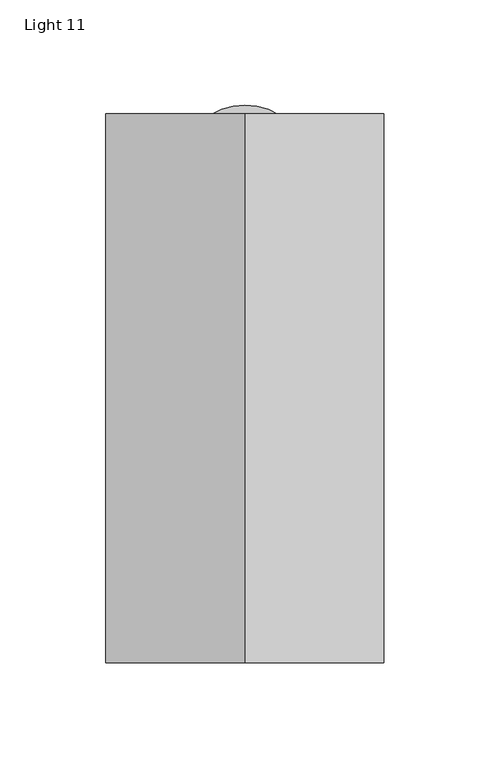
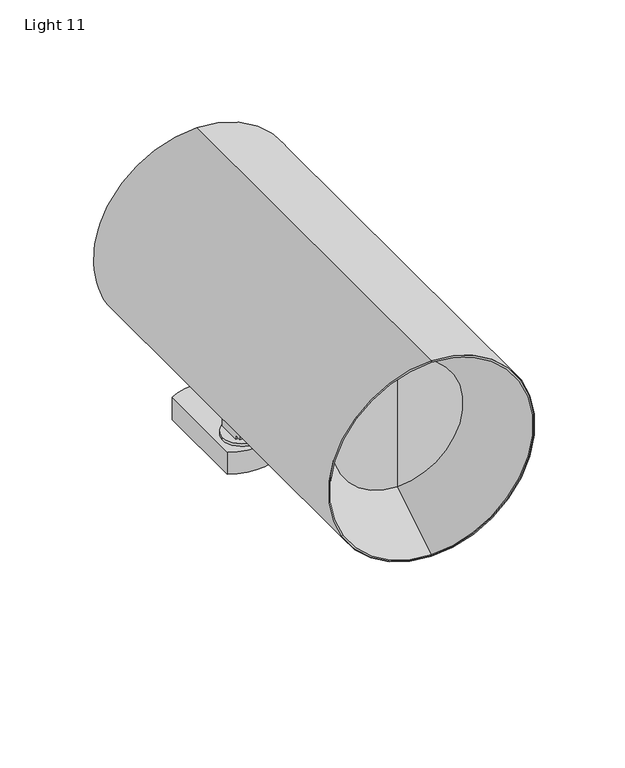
"""IFC4 building model written with IfcOpenShell, lengths in millimetres: light fixture geometry, PIPES T L : Light 11."""

from ifc_helpers import new_model, si_unit, point, frame, frame_2d, origin, origin_with_axes, origin_2d, place, context, project, spatial, polyline, circle_curve, trimmed, segment, composite_curve, outline, extrude, source, transform, mapped, element, save
from ifc_brep_helpers import plane_surface, cylinder_surface, revolved_surface, advanced_brep


def light_11_2a75b1a4(model_context):
    return source(origin(), model_context, "Body", "SolidModel", [
        advanced_brep(
        [(7.0, -10.0, 78.3537722), (7.0, -10.0, 19.4236941), (7.0, -5.4241367, 19.4236941), (7.0, -5.4241367, 16.8), (7.0, 10.0, 16.8), (7.0, 10.0, 70.8099323), (7.0, 2.6102343, 79.2766927), (7.0, -7.1274849, 80.6452398), (7.0, -7.1274849, 78.3537722), (-7.0, -10.0, 78.3537722), (-7.0, -7.1274849, 78.3537722), (-7.0, -7.1274849, 80.6452398), (-7.0, 2.6102343, 79.2766927), (-7.0, 9.9702768, 70.8099323), (-7.0, 10.0, 16.8), (-7.0, -5.4241367, 16.8), (-7.0, -5.4241367, 19.4236941), (-7.0, -10.0, 19.4236941)],
        [
            (0, 1),
            (1, 2),
            (2, 3),
            (3, 4),
            (4, 5),
            (5, 6, circle_curve(frame((7.0, 1.4203087, 70.8099323), z_axis=(1.0, 0.0, 0.0), x_axis=(0.0, -1.0, 0.0)), 8.5499681)),
            (6, 7),
            (7, 8),
            (8, 0),
            (9, 10),
            (10, 11),
            (11, 12),
            (12, 13, circle_curve(frame((-7.0, 1.4203087, 70.8099323), z_axis=(-1.0, 0.0, 0.0), x_axis=(0.0, -1.0, 0.0)), 8.5499681)),
            (13, 14),
            (14, 15),
            (15, 16),
            (16, 17),
            (17, 9),
            (5, 13),
            (12, 6),
            (11, 7),
            (10, 8),
            (9, 0),
            (17, 1),
            (16, 2),
            (15, 3),
            (14, 4),
        ],
        [
            plane_surface(frame((7.0, -10.0, 21.3023289), z_axis=(1.0, 0.0, 0.0), x_axis=(0.0, 0.0, -1.0))),
            plane_surface(frame((-7.0, -10.0, 21.3023289), z_axis=(-1.0, 0.0, 0.0), x_axis=(0.0, 0.0, 1.0))),
            cylinder_surface(frame((-7.0, 1.4203087, 70.8099323), z_axis=(1.0, 0.0, 0.0), x_axis=(0.0, -1.0, 0.0)), 8.5499681),
            plane_surface(frame((7.0, 2.6102343, 79.2766927), z_axis=(0.0, 0.1391731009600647, 0.9902680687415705), x_axis=(-1.0, 0.0, 0.0))),
            plane_surface(frame((7.0, -7.1274849, 80.6452398), z_axis=(0.0, -1.0, 0.0), x_axis=(-1.0, 0.0, 0.0))),
            plane_surface(frame((7.0, -7.1274849, 78.3537722), z_axis=(0.0, 0.0, 1.0), x_axis=(-1.0, 0.0, 0.0))),
            plane_surface(frame((7.0, -10.0, 78.3537722), z_axis=(0.0, -1.0, 0.0), x_axis=(-1.0, 0.0, 0.0))),
            plane_surface(frame((7.0, -10.0, 19.4236941), z_axis=(0.0, 0.0, -1.0), x_axis=(-1.0, 0.0, 0.0))),
            plane_surface(frame((7.0, -5.4241367, 19.4236941), z_axis=(0.0, -1.0, 0.0), x_axis=(-1.0, 0.0, 0.0))),
            plane_surface(frame((7.0, -5.4241367, 16.8), z_axis=(0.0, 0.0, -1.0), x_axis=(-1.0, 0.0, 0.0))),
            plane_surface(frame((7.0, 10.0, 16.8), z_axis=(0.0, 1.0, 0.0), x_axis=(-1.0, 0.0, 0.0))),
        ],
        [
            (0, [[1, 2, 3, 4, 5, 6, 7, 8, 9]]),
            (1, [[10, 11, 12, 13, 14, 15, 16, 17, 18]]),
            (2, [[-6, 19, -13, 20]]),
            (3, [[-7, -20, -12, 21]]),
            (4, [[-8, -21, -11, 22]]),
            (5, [[-9, -22, -10, 23]]),
            (6, [[-1, -23, -18, 24]]),
            (7, [[-2, -24, -17, 25]]),
            (8, [[-3, -25, -16, 26]]),
            (9, [[-4, -26, -15, 27]]),
            (10, [[-5, -27, -14, -19]]),
        ],
    ),
        extrude(outline(composite_curve([segment(trimmed(circle_curve(origin_2d(), 12.5), [point((12.5, 0.0))], [point((-12.5, 0.0))], False, "CARTESIAN"), True, "CONTINUOUS"), segment(trimmed(circle_curve(origin_2d(), 12.5), [point((-12.5, 0.0))], [point((12.5, 0.0))], False, "CARTESIAN"), True, "CONTINUOUS")], self_intersect=False)), frame((0.0, 0.0, 15.0), z_axis=(0.0, 0.0, 1.0), x_axis=(1.0, 0.0, 0.0)), (0.0, 0.0, 1.0), 1.8),
        extrude(outline(composite_curve([segment(polyline([(-16.1153658, -11.6682336), (-16.1153658, 49.7317664)]), True, "CONTINUOUS"), segment(trimmed(circle_curve(frame_2d((0.0, 22.6472542)), 31.5162786), [point((-16.1153658, 49.7317664))], [point((16.1153658, 49.7317664))], False, "CARTESIAN"), True, "CONTINUOUS"), segment(polyline([(16.1153658, 49.7317664), (16.1153658, -11.6682336)]), True, "CONTINUOUS"), segment(trimmed(circle_curve(frame_2d((0.0, 15.4162786)), 31.5162786), [point((16.1153658, -11.6682336))], [point((-16.1153658, -11.6682336))], False, "CARTESIAN"), True, "CONTINUOUS")], self_intersect=False)), origin_with_axes(), (0.0, 0.0, 1.0), 15.0),
        advanced_brep(
        [(0.0, -211.0, 59.4236941), (0.0, -211.0, 192.4236941), (0.0, 50.0, 192.4236941), (-8.0, 50.0, 59.9066508), (-8.0, -10.0, 59.9066508), (0.0, -10.0, 59.4236941), (8.0, -10.0, 59.9066508), (8.0, 50.0, 59.9066508), (0.0, 50.0, 190.4236941), (-8.0, 50.0, 61.921741), (8.0, 50.0, 61.921741), (0.0, 39.0, 190.4236941), (-8.0, 39.0, 61.921741), (8.0, 39.0, 61.921741), (0.0, 39.0, 125.9236941), (0.0, 39.0, 79.4236941), (-8.0, 39.0, 79.4236941), (8.0, 39.0, 79.4236941), (0.0, -172.0, 168.5503073), (0.0, -172.0, 83.2970809), (0.0, -172.0, 125.9236941), (8.0, -10.0, 79.4236941), (-8.0, -10.0, 79.4236941)],
        [
            (0, 1, circle_curve(frame((0.0, -211.0, 125.9236941), z_axis=(0.0, 1.0, 0.0), x_axis=(0.0, 0.0, -1.0)), 66.5)),
            (1, 2),
            (2, 3, circle_curve(frame((0.0, 50.0, 125.9236941), z_axis=(0.0, -1.0, 0.0), x_axis=(0.0, 0.0, -1.0)), 66.5)),
            (3, 4),
            (4, 5, circle_curve(frame((0.0, -10.0, 125.9236941), z_axis=(0.0, -1.0, 0.0), x_axis=(0.0, 0.0, -1.0)), 66.5)),
            (5, 0),
            (1, 0, circle_curve(frame((0.0, -211.0, 125.9236941), z_axis=(0.0, 1.0, 0.0), x_axis=(0.0, 0.0, -1.0)), 66.5)),
            (5, 6, circle_curve(frame((0.0, -10.0, 125.9236941), z_axis=(0.0, -1.0, 0.0), x_axis=(0.0, 0.0, -1.0)), 66.5)),
            (6, 7),
            (7, 2, circle_curve(frame((0.0, 50.0, 125.9236941), z_axis=(0.0, -1.0, 0.0), x_axis=(0.0, 0.0, -1.0)), 66.5)),
            (2, 8),
            (8, 9, circle_curve(frame((0.0, 50.0, 125.9236941), z_axis=(0.0, -1.0, 0.0), x_axis=(0.0, 0.0, -1.0)), 64.5)),
            (9, 3),
            (7, 10),
            (10, 8, circle_curve(frame((0.0, 50.0, 125.9236941), z_axis=(0.0, -1.0, 0.0), x_axis=(0.0, 0.0, -1.0)), 64.5)),
            (8, 11),
            (11, 12, circle_curve(frame((0.0, 39.0, 125.9236941), z_axis=(0.0, -1.0, 0.0), x_axis=(0.0, 0.0, -1.0)), 64.5)),
            (12, 9),
            (10, 13),
            (13, 11, circle_curve(frame((0.0, 39.0, 125.9236941), z_axis=(0.0, -1.0, 0.0), x_axis=(0.0, 0.0, -1.0)), 64.5)),
            (11, 14),
            (14, 15),
            (15, 16),
            (16, 12),
            (13, 17),
            (17, 15),
            (18, 19, circle_curve(frame((0.0, -172.0, 125.9236941), z_axis=(0.0, -1.0, 0.0), x_axis=(0.0, 0.0, -1.0)), 42.6266132)),
            (19, 20),
            (20, 18),
            (19, 18, circle_curve(frame((0.0, -172.0, 125.9236941), z_axis=(0.0, -1.0, 0.0), x_axis=(0.0, 0.0, -1.0)), 42.6266132)),
            (0, 19),
            (18, 1),
            (21, 17),
            (6, 21),
            (22, 4),
            (16, 22),
            (21, 22),
        ],
        [
            cylinder_surface(frame((0.0, 55.452381, 125.9236941), z_axis=(0.0, 1.0, 0.0), x_axis=(0.0, 0.0, -1.0)), 66.5),
            plane_surface(frame((0.0, 50.0, 125.9236941), z_axis=(0.0, 1.0, 0.0), x_axis=(0.0, 0.0, -1.0))),
            revolved_surface(polyline([(0.0, 50.0, 61.423694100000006), (0.0, 39.0, 61.423694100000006)]), (0.0, 55.452381, 125.9236941), (0.0, 1.0, 0.0)),
            plane_surface(frame((0.0, 39.0, 125.9236941), z_axis=(0.0, 1.0, 0.0), x_axis=(0.0, 0.0, -1.0))),
            plane_surface(frame((0.0, -172.0, 125.9236941), z_axis=(0.0, -1.0, 0.0), x_axis=(0.0, 0.0, -1.0))),
            revolved_surface(polyline([(0.0, -172.0, 83.2970809), (0.0, -211.0, 59.4236941)]), (0.0, 55.452381, 125.9236941), (0.0, 1.0, 0.0)),
            plane_surface(frame((8.0, -11.0, 79.4236941), z_axis=(-1.0, 0.0, 0.0), x_axis=(0.0, -1.0, 0.0))),
            plane_surface(frame((-8.0, -11.0, 79.4236941), z_axis=(1.0, 0.0, 0.0), x_axis=(0.0, 1.0, 0.0))),
            plane_surface(frame((-8.0, -10.0, 79.4236941), z_axis=(0.0, 0.0, -1.0), x_axis=(1.0, 0.0, 0.0))),
            plane_surface(frame((-8.0, -10.0, 54.4236941), z_axis=(0.0, 1.0, 0.0), x_axis=(1.0, 0.0, 0.0))),
        ],
        [
            (0, [[1, 2, 3, 4, 5, 6]]),
            (0, [[-2, 7, -6, 8, 9, 10]]),
            (1, [[11, 12, 13, -3]]),
            (1, [[-11, -10, 14, 15]]),
            (2, [[16, 17, 18, -12]]),
            (2, [[-16, -15, 19, 20]]),
            (3, [[21, 22, 23, 24, -17]]),
            (3, [[-21, -20, 25, 26, -22]]),
            (4, [[27, 28, 29]]),
            (4, [[-28, 30, -29]]),
            (5, [[-1, 31, -27, 32]]),
            (5, [[-7, -32, -30, -31]]),
            (6, [[33, -25, -19, -14, -9, 34]]),
            (7, [[35, -4, -13, -18, -24, 36]]),
            (8, [[37, -36, -23, -26, -33]]),
            (9, [[-37, -34, -8, -5, -35]]),
        ],
    ),
        advanced_brep(
        [(0.0, 48.0, 125.9236941), (0.0, 48.0, 188.4173375), (-8.0, 48.0, 63.9442179), (-8.0, 48.0, 79.4236941), (0.0, 48.0, 79.4236941), (8.0, 48.0, 79.4236941), (8.0, 48.0, 63.9442179), (0.0, 50.0, 188.4173375), (-8.0, 50.0, 63.9442179), (8.0, 50.0, 63.9442179), (0.0, 50.0, 125.9236941), (0.0, 50.0, 79.4236941), (-8.0, 50.0, 79.4236941), (8.0, 50.0, 79.4236941)],
        [
            (0, 1),
            (1, 2, circle_curve(frame((0.0, 48.0, 125.9236941), z_axis=(0.0, -1.0, 0.0), x_axis=(0.0, 0.0, -1.0)), 62.4936434)),
            (2, 3),
            (3, 4),
            (4, 0),
            (4, 5),
            (5, 6),
            (6, 1, circle_curve(frame((0.0, 48.0, 125.9236941), z_axis=(0.0, -1.0, 0.0), x_axis=(0.0, 0.0, -1.0)), 62.4936434)),
            (1, 7),
            (7, 8, circle_curve(frame((0.0, 50.0, 125.9236941), z_axis=(0.0, -1.0, 0.0), x_axis=(0.0, 0.0, -1.0)), 62.4936434)),
            (8, 2),
            (6, 9),
            (9, 7, circle_curve(frame((0.0, 50.0, 125.9236941), z_axis=(0.0, -1.0, 0.0), x_axis=(0.0, 0.0, -1.0)), 62.4936434)),
            (7, 10),
            (10, 11),
            (11, 12),
            (12, 8),
            (9, 13),
            (13, 11),
            (5, 13),
            (12, 3),
        ],
        [
            plane_surface(frame((0.0, 48.0, 125.9236941), z_axis=(0.0, -1.0, 0.0), x_axis=(0.0, 0.0, -1.0))),
            cylinder_surface(frame((0.0, 55.452381, 125.9236941), z_axis=(0.0, 1.0, 0.0), x_axis=(0.0, 0.0, -1.0)), 62.4936434),
            plane_surface(frame((0.0, 50.0, 125.9236941), z_axis=(0.0, 1.0, 0.0), x_axis=(0.0, 0.0, -1.0))),
            plane_surface(frame((8.0, -11.0, 79.4236941), z_axis=(-1.0, 0.0, 0.0), x_axis=(0.0, -1.0, 0.0))),
            plane_surface(frame((-8.0, -11.0, 79.4236941), z_axis=(1.0, 0.0, 0.0), x_axis=(0.0, 1.0, 0.0))),
            plane_surface(frame((-8.0, -10.0, 79.4236941), z_axis=(0.0, 0.0, -1.0), x_axis=(1.0, 0.0, 0.0))),
        ],
        [
            (0, [[1, 2, 3, 4, 5]]),
            (0, [[-1, -5, 6, 7, 8]]),
            (1, [[9, 10, 11, -2]]),
            (1, [[-9, -8, 12, 13]]),
            (2, [[14, 15, 16, 17, -10]]),
            (2, [[-14, -13, 18, 19, -15]]),
            (3, [[20, -18, -12, -7]]),
            (4, [[21, -3, -11, -17]]),
            (5, [[-20, -6, -4, -21, -16, -19]]),
        ],
    ),
        advanced_brep(
        [(0.0, -211.0, 192.4236941), (0.0, -211.0, 59.4236941), (0.0, -211.0, 60.5961757), (0.0, -211.0, 191.2512125), (0.0, -173.0, 167.9899638), (0.0, -173.0, 83.8574243), (0.0, -173.0, 125.9236941), (0.0, -172.0, 168.5503073), (0.0, -172.0, 83.2970809), (0.0, -172.0, 125.9236941)],
        [
            (0, 1, circle_curve(frame((0.0, -211.0, 125.9236941), z_axis=(0.0, -1.0, 0.0), x_axis=(0.0, 0.0, -1.0)), 66.5)),
            (1, 2),
            (2, 3, circle_curve(frame((0.0, -211.0, 125.9236941), z_axis=(0.0, 1.0, 0.0), x_axis=(0.0, 0.0, -1.0)), 65.3275184)),
            (3, 0),
            (1, 0, circle_curve(frame((0.0, -211.0, 125.9236941), z_axis=(0.0, -1.0, 0.0), x_axis=(0.0, 0.0, -1.0)), 66.5)),
            (3, 2, circle_curve(frame((0.0, -211.0, 125.9236941), z_axis=(0.0, 1.0, 0.0), x_axis=(0.0, 0.0, -1.0)), 65.3275184)),
            (4, 5, circle_curve(frame((0.0, -173.0, 125.9236941), z_axis=(0.0, -1.0, 0.0), x_axis=(0.0, 0.0, -1.0)), 42.0662698)),
            (5, 6),
            (6, 4),
            (5, 4, circle_curve(frame((0.0, -173.0, 125.9236941), z_axis=(0.0, -1.0, 0.0), x_axis=(0.0, 0.0, -1.0)), 42.0662698)),
            (7, 8, circle_curve(frame((0.0, -172.0, 125.9236941), z_axis=(0.0, -1.0, 0.0), x_axis=(0.0, 0.0, -1.0)), 42.6266132)),
            (8, 1),
            (0, 7),
            (8, 7, circle_curve(frame((0.0, -172.0, 125.9236941), z_axis=(0.0, -1.0, 0.0), x_axis=(0.0, 0.0, -1.0)), 42.6266132)),
            (9, 8),
            (7, 9),
            (2, 5),
            (4, 3),
        ],
        [
            plane_surface(frame((0.0, -211.0, 125.9236941), z_axis=(0.0, -1.0, 0.0), x_axis=(0.0, 0.0, -1.0))),
            plane_surface(frame((0.0, -173.0, 125.9236941), z_axis=(0.0, -1.0, 0.0), x_axis=(0.0, 0.0, -1.0))),
            revolved_surface(polyline([(0.0, -211.0, 59.4236941), (0.0, -172.0, 83.2970809)]), (0.0, 55.452381, 125.9236941), (0.0, 1.0, 0.0)),
            plane_surface(frame((0.0, -172.0, 125.9236941), z_axis=(0.0, 1.0, 0.0), x_axis=(0.0, 0.0, -1.0))),
            revolved_surface(polyline([(0.0, -173.0, 83.8574243), (0.0, -211.0, 60.5961757)]), (0.0, 55.452381, 125.9236941), (0.0, 1.0, 0.0)),
        ],
        [
            (0, [[1, 2, 3, 4]]),
            (0, [[5, -4, 6, -2]]),
            (1, [[7, 8, 9]]),
            (1, [[10, -9, -8]]),
            (2, [[11, 12, -1, 13]]),
            (2, [[14, -13, -5, -12]]),
            (3, [[15, -11, 16]]),
            (3, [[-16, -14, -15]]),
            (4, [[-3, 17, -7, 18]]),
            (4, [[-6, -18, -10, -17]]),
        ],
    ),
    ])


if __name__ == "__main__":
    model = new_model("IFC4")
    model_context = context("Model", 3, world=origin())
    ifc_project = project(units=[si_unit("LENGTHUNIT", "METRE", prefix="MILLI")], contexts=[model_context])
    site = spatial("IfcSite", under=ifc_project)
    building = spatial("IfcBuilding", under=site)
    placement = place(None, origin())
    light_11_shape = light_11_2a75b1a4(model_context)
    element("IfcLightFixture", 1, ObjectType="PIPES T L : Light 11", at=placement, inside=building, context=model_context, shape_type="MappedRepresentation", body=[
        mapped(light_11_shape, transform((0.0, 0.0, 0.0), x_axis=(1.0, 0.0, 0.0), y_axis=(0.0, 1.0, 0.0), z_axis=(0.0, 0.0, 1.0))),
    ])
    save(model, "model.ifc")
